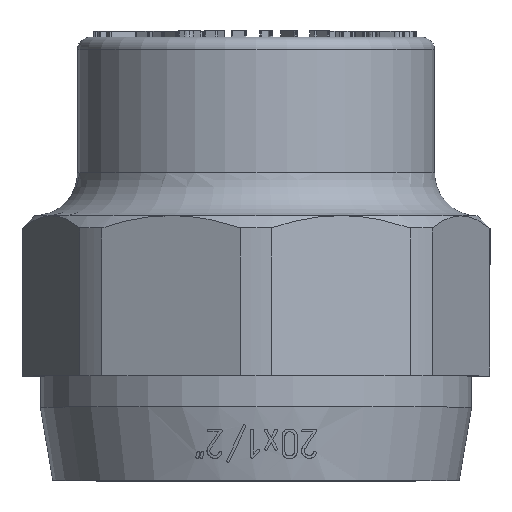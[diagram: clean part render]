
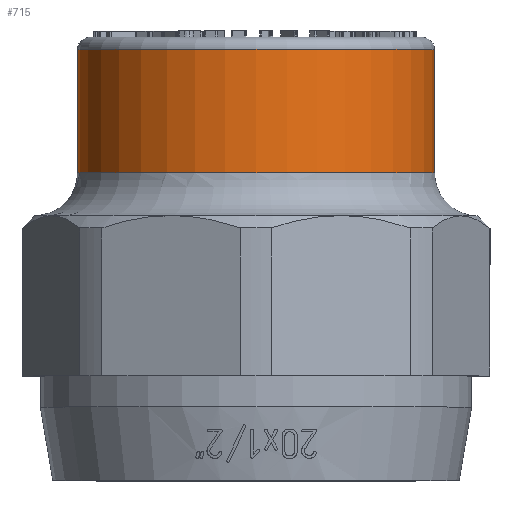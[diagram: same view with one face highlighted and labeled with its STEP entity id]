
A CAD part, top view. The second image highlights one B-rep face of the part: STEP entity #715.
In plain terms, the highlighted cylindrical face has radius 14.5 mm (diameter 29 mm), a full revolution.
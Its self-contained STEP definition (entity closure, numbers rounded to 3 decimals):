
#715=ADVANCED_FACE('',(#4186,#4188),#4190,.T.);
#4186=FACE_OUTER_BOUND('',#4187,.T.);
#4187=EDGE_LOOP('',(#10210));
#4188=FACE_OUTER_BOUND('',#4189,.T.);
#4189=EDGE_LOOP('',(#10211));
#4190=CYLINDRICAL_SURFACE('',#4191,14.5);
#4191=AXIS2_PLACEMENT_3D('',#4192,#4193,#4194);
#4192=CARTESIAN_POINT('',(0.,-36.,0.));
#4193=DIRECTION('',(0.,1.,0.));
#4194=DIRECTION('',(-1.,0.,0.));
#10210=ORIENTED_EDGE('',*,*,#13338,.F.);
#10211=ORIENTED_EDGE('',*,*,#14187,.F.);
#13338=EDGE_CURVE('',#16058,#16058,#16059,.T.);
#14187=EDGE_CURVE('',#17333,#17333,#17334,.F.);
#16058=VERTEX_POINT('',#20857);
#16059=CIRCLE('',#20858,14.5);
#17333=VERTEX_POINT('',#23832);
#17334=CIRCLE('',#23833,14.5);
#20857=CARTESIAN_POINT('',(-14.5,-1.,0.));
#20858=AXIS2_PLACEMENT_3D('',#20859,#20860,#20861);
#20859=CARTESIAN_POINT('',(0.,-1.,0.));
#20860=DIRECTION('',(0.,1.,0.));
#20861=DIRECTION('',(-1.,0.,0.));
#23832=CARTESIAN_POINT('',(-14.5,-11.,0.));
#23833=AXIS2_PLACEMENT_3D('',#23834,#23835,#23836);
#23834=CARTESIAN_POINT('',(0.,-11.,0.));
#23835=DIRECTION('',(0.,1.,0.));
#23836=DIRECTION('',(-1.,0.,0.));
